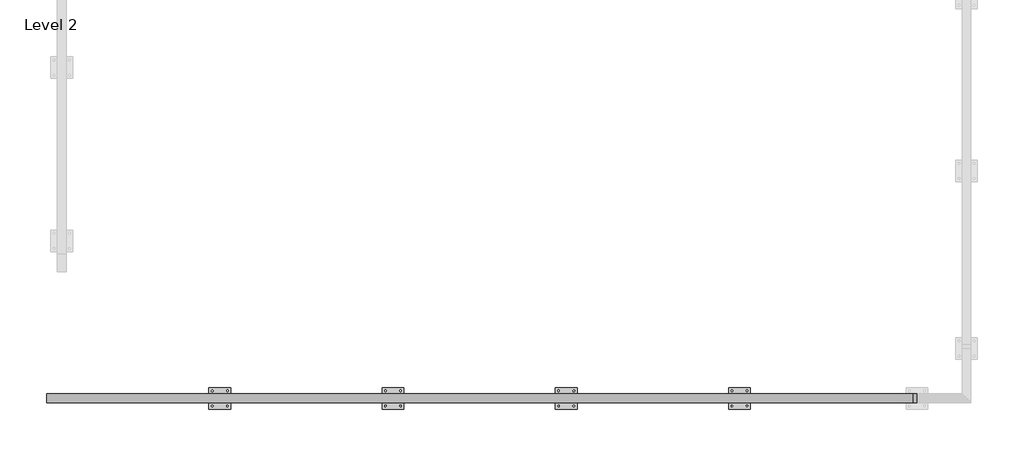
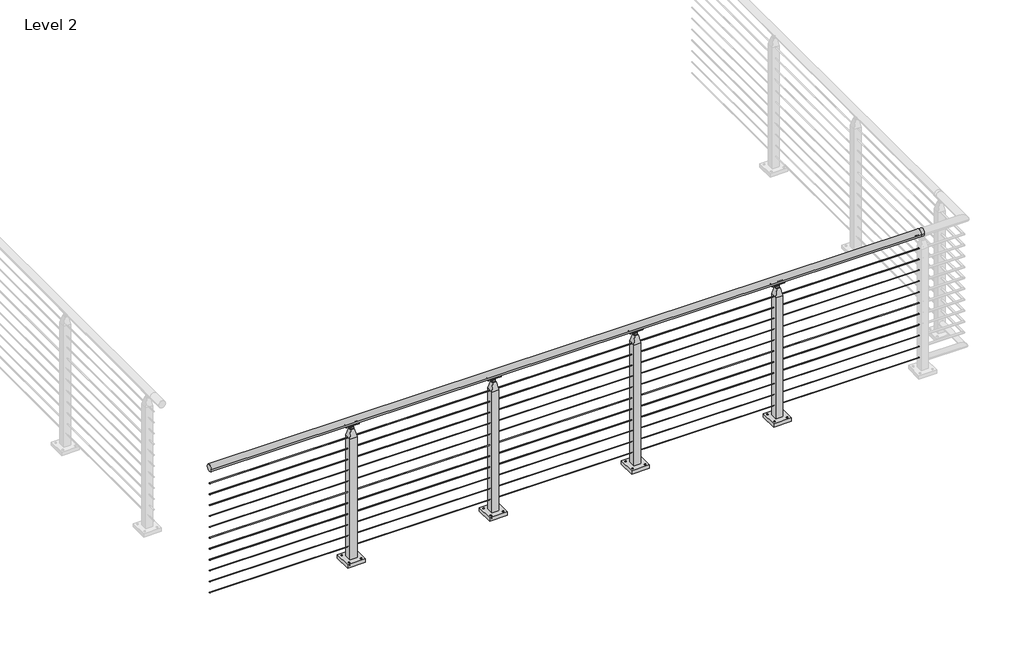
# One storey, part 8 of 17: 1 railing.
"""IFC4 building model written with IfcOpenShell, lengths in millimetres."""

from ifc_helpers import new_model, si_unit, point, frame, frame_2d, origin, place, context, project, spatial, polyline, circle_curve, trimmed, segment, composite_curve, outline, extrude, faceted_brep, element, save
from ifc_brep_helpers import plane_surface, cylinder_surface, revolved_surface, advanced_brep

model = new_model("IFC4")

# Units and contexts
model_context = context("Model", 3, world=origin())
ifc_project = project(units=[si_unit("LENGTHUNIT", "METRE", prefix="MILLI")], contexts=[model_context])

# Site, building, storey
site = spatial("IfcSite", under=ifc_project)
building = spatial("IfcBuilding", under=site)
storey = spatial("IfcBuildingStorey", under=building, Name="Level 2", Elevation=3048.0)

# Railing
placement = place(None, origin())
element("IfcRailing", 1, ObjectType="VIVA-CUBE-Cable-Floor Mount-Straight", at=placement, inside=storey, context=model_context, shape_type="SolidModel", body=[
    advanced_brep(
    [(15512.7167764, -52130.1426165, 4102.1), (15512.7167764, -52079.3426165, 4102.1), (20592.7167764, -52130.1426165, 4102.1), (20592.7167764, -52079.3426165, 4102.1), (20617.7199014, -52130.1426165, 4102.1), (20617.7199014, -52079.3426165, 4102.1)],
    [
        (0, 1, circle_curve(frame((15512.7167764, -52104.7426165, 4102.1), z_axis=(-1.0, 0.0, 0.0), x_axis=(0.0, 1.0, 0.0)), 25.4)),
        (1, 0, circle_curve(frame((15512.7167764, -52104.7426165, 4102.1), z_axis=(-1.0, 0.0, 0.0), x_axis=(0.0, 1.0, 0.0)), 25.4)),
        (0, 2),
        (2, 3, circle_curve(frame((20592.7167764, -52104.7426165, 4102.1), z_axis=(-1.0, 0.0, 0.0), x_axis=(0.0, 1.0, 0.0)), 25.4)),
        (3, 1),
        (3, 2, circle_curve(frame((20592.7167764, -52104.7426165, 4102.1), z_axis=(-1.0, 0.0, 0.0), x_axis=(0.0, 1.0, 0.0)), 25.4)),
        (4, 5, circle_curve(frame((20617.7199014, -52104.7426165, 4102.1), z_axis=(1.0, 0.0, 0.0), x_axis=(0.0, 1.0, 0.0)), 25.4)),
        (5, 4, circle_curve(frame((20617.7199014, -52104.7426165, 4102.1), z_axis=(1.0, 0.0, 0.0), x_axis=(0.0, 1.0, 0.0)), 25.4)),
        (2, 4),
        (5, 3),
    ],
    [
        plane_surface(frame((15512.7167764, -52104.7426165, 4127.5), z_axis=(-1.0, 0.0, 0.0), x_axis=(0.0, 1.0, 0.0))),
        cylinder_surface(frame((15512.7167764, -52104.7426165, 4102.1), z_axis=(-1.0, 0.0, 0.0), x_axis=(0.0, 1.0, 0.0)), 25.4),
        plane_surface(frame((20617.7199014, -52104.7426165, 4127.5), z_axis=(1.0, 0.0, 0.0), x_axis=(0.0, 1.0, 0.0))),
        cylinder_surface(frame((20592.7167764, -52104.7426165, 4102.1), z_axis=(-1.0, 0.0, 0.0), x_axis=(0.0, 1.0, 0.0)), 25.4),
    ],
    [
        (0, [[1, 2]]),
        (1, [[-1, 3, 4, 5]]),
        (1, [[-2, -5, 6, -3]]),
        (2, [[7, 8]]),
        (3, [[-4, 9, -8, 10]]),
        (3, [[-6, -10, -7, -9]]),
    ],
),
    extrude(outline(composite_curve([segment(trimmed(circle_curve(frame_2d((-52104.7426165, 3985.4124)), 2.3876), [point((-52102.3550165, 3985.4124))], [point((-52107.1302165, 3985.4124))], False, "CARTESIAN"), True, "CONTINUOUS"), segment(trimmed(circle_curve(frame_2d((-52104.7426165, 3985.4124)), 2.3876), [point((-52107.1302165, 3985.4124))], [point((-52102.3550165, 3985.4124))], False, "CARTESIAN"), True, "CONTINUOUS")], self_intersect=False)), frame((15512.7167764, 0.0, 0.0), z_axis=(1.0, 0.0, 0.0), x_axis=(0.0, 1.0, 0.0)), (0.0, 0.0, 1.0), 5080.0),
    extrude(outline(composite_curve([segment(trimmed(circle_curve(frame_2d((-52104.7426165, 3902.8624)), 2.3876), [point((-52102.3550165, 3902.8624))], [point((-52107.1302165, 3902.8624))], False, "CARTESIAN"), True, "CONTINUOUS"), segment(trimmed(circle_curve(frame_2d((-52104.7426165, 3902.8624)), 2.3876), [point((-52107.1302165, 3902.8624))], [point((-52102.3550165, 3902.8624))], False, "CARTESIAN"), True, "CONTINUOUS")], self_intersect=False)), frame((15512.7167764, 0.0, 0.0), z_axis=(1.0, 0.0, 0.0), x_axis=(0.0, 1.0, 0.0)), (0.0, 0.0, 1.0), 5080.0),
    extrude(outline(composite_curve([segment(trimmed(circle_curve(frame_2d((-52104.7426165, 3820.3124)), 2.3876), [point((-52102.3550165, 3820.3124))], [point((-52107.1302165, 3820.3124))], False, "CARTESIAN"), True, "CONTINUOUS"), segment(trimmed(circle_curve(frame_2d((-52104.7426165, 3820.3124)), 2.3876), [point((-52107.1302165, 3820.3124))], [point((-52102.3550165, 3820.3124))], False, "CARTESIAN"), True, "CONTINUOUS")], self_intersect=False)), frame((15512.7167764, 0.0, 0.0), z_axis=(1.0, 0.0, 0.0), x_axis=(0.0, 1.0, 0.0)), (0.0, 0.0, 1.0), 5080.0),
    extrude(outline(composite_curve([segment(trimmed(circle_curve(frame_2d((-52104.7426165, 3737.7624)), 2.3876), [point((-52102.3550165, 3737.7624))], [point((-52107.1302165, 3737.7624))], False, "CARTESIAN"), True, "CONTINUOUS"), segment(trimmed(circle_curve(frame_2d((-52104.7426165, 3737.7624)), 2.3876), [point((-52107.1302165, 3737.7624))], [point((-52102.3550165, 3737.7624))], False, "CARTESIAN"), True, "CONTINUOUS")], self_intersect=False)), frame((15512.7167764, 0.0, 0.0), z_axis=(1.0, 0.0, 0.0), x_axis=(0.0, 1.0, 0.0)), (0.0, 0.0, 1.0), 5080.0),
    extrude(outline(composite_curve([segment(trimmed(circle_curve(frame_2d((-52104.7426165, 3655.2124)), 2.3876), [point((-52102.3550165, 3655.2124))], [point((-52107.1302165, 3655.2124))], False, "CARTESIAN"), True, "CONTINUOUS"), segment(trimmed(circle_curve(frame_2d((-52104.7426165, 3655.2124)), 2.3876), [point((-52107.1302165, 3655.2124))], [point((-52102.3550165, 3655.2124))], False, "CARTESIAN"), True, "CONTINUOUS")], self_intersect=False)), frame((15512.7167764, 0.0, 0.0), z_axis=(1.0, 0.0, 0.0), x_axis=(0.0, 1.0, 0.0)), (0.0, 0.0, 1.0), 5080.0),
    extrude(outline(composite_curve([segment(trimmed(circle_curve(frame_2d((-52104.7426165, 3572.6624)), 2.3876), [point((-52102.3550165, 3572.6624))], [point((-52107.1302165, 3572.6624))], False, "CARTESIAN"), True, "CONTINUOUS"), segment(trimmed(circle_curve(frame_2d((-52104.7426165, 3572.6624)), 2.3876), [point((-52107.1302165, 3572.6624))], [point((-52102.3550165, 3572.6624))], False, "CARTESIAN"), True, "CONTINUOUS")], self_intersect=False)), frame((15512.7167764, 0.0, 0.0), z_axis=(1.0, 0.0, 0.0), x_axis=(0.0, 1.0, 0.0)), (0.0, 0.0, 1.0), 5080.0),
    extrude(outline(composite_curve([segment(trimmed(circle_curve(frame_2d((-52104.7426165, 3490.1124)), 2.3876), [point((-52102.3550165, 3490.1124))], [point((-52107.1302165, 3490.1124))], False, "CARTESIAN"), True, "CONTINUOUS"), segment(trimmed(circle_curve(frame_2d((-52104.7426165, 3490.1124)), 2.3876), [point((-52107.1302165, 3490.1124))], [point((-52102.3550165, 3490.1124))], False, "CARTESIAN"), True, "CONTINUOUS")], self_intersect=False)), frame((15512.7167764, 0.0, 0.0), z_axis=(1.0, 0.0, 0.0), x_axis=(0.0, 1.0, 0.0)), (0.0, 0.0, 1.0), 5080.0),
    extrude(outline(composite_curve([segment(trimmed(circle_curve(frame_2d((-52104.7426165, 3407.5624)), 2.3876), [point((-52102.3550165, 3407.5624))], [point((-52107.1302165, 3407.5624))], False, "CARTESIAN"), True, "CONTINUOUS"), segment(trimmed(circle_curve(frame_2d((-52104.7426165, 3407.5624)), 2.3876), [point((-52107.1302165, 3407.5624))], [point((-52102.3550165, 3407.5624))], False, "CARTESIAN"), True, "CONTINUOUS")], self_intersect=False)), frame((15512.7167764, 0.0, 0.0), z_axis=(1.0, 0.0, 0.0), x_axis=(0.0, 1.0, 0.0)), (0.0, 0.0, 1.0), 5080.0),
    extrude(outline(composite_curve([segment(trimmed(circle_curve(frame_2d((-52104.7426165, 3325.0124)), 2.3876), [point((-52102.3550165, 3325.0124))], [point((-52107.1302165, 3325.0124))], False, "CARTESIAN"), True, "CONTINUOUS"), segment(trimmed(circle_curve(frame_2d((-52104.7426165, 3325.0124)), 2.3876), [point((-52107.1302165, 3325.0124))], [point((-52102.3550165, 3325.0124))], False, "CARTESIAN"), True, "CONTINUOUS")], self_intersect=False)), frame((15512.7167764, 0.0, 0.0), z_axis=(1.0, 0.0, 0.0), x_axis=(0.0, 1.0, 0.0)), (0.0, 0.0, 1.0), 5080.0),
    extrude(outline(composite_curve([segment(trimmed(circle_curve(frame_2d((-52104.7426165, 3242.4624)), 2.3876), [point((-52102.3550165, 3242.4624))], [point((-52107.1302165, 3242.4624))], False, "CARTESIAN"), True, "CONTINUOUS"), segment(trimmed(circle_curve(frame_2d((-52104.7426165, 3242.4624)), 2.3876), [point((-52107.1302165, 3242.4624))], [point((-52102.3550165, 3242.4624))], False, "CARTESIAN"), True, "CONTINUOUS")], self_intersect=False)), frame((15512.7167764, 0.0, 0.0), z_axis=(1.0, 0.0, 0.0), x_axis=(0.0, 1.0, 0.0)), (0.0, 0.0, 1.0), 5080.0),
    extrude(outline(composite_curve([segment(trimmed(circle_curve(frame_2d((-52104.7426165, 3159.9124)), 2.3876), [point((-52102.3550165, 3159.9124))], [point((-52107.1302165, 3159.9124))], False, "CARTESIAN"), True, "CONTINUOUS"), segment(trimmed(circle_curve(frame_2d((-52104.7426165, 3159.9124)), 2.3876), [point((-52107.1302165, 3159.9124))], [point((-52102.3550165, 3159.9124))], False, "CARTESIAN"), True, "CONTINUOUS")], self_intersect=False)), frame((15512.7167764, 0.0, 0.0), z_axis=(1.0, 0.0, 0.0), x_axis=(0.0, 1.0, 0.0)), (0.0, 0.0, 1.0), 5080.0),
    extrude(outline(polyline([(19640.6136514, -52041.2426165), (19640.6136514, -52168.2426165), (19513.6136514, -52168.2426165), (19513.6136514, -52041.2426165), (19640.6136514, -52041.2426165)]), holes=[composite_curve([segment(trimmed(circle_curve(frame_2d((19532.6636514, -52149.1926165)), 4.7625), [point((19532.6636514, -52153.9551165))], [point((19532.6636514, -52144.4301165))], True, "CARTESIAN"), True, "CONTINUOUS"), segment(trimmed(circle_curve(frame_2d((19532.6636514, -52149.1926165)), 4.7625), [point((19532.6636514, -52144.4301165))], [point((19532.6636514, -52153.9551165))], True, "CARTESIAN"), True, "CONTINUOUS")], self_intersect=False), composite_curve([segment(trimmed(circle_curve(frame_2d((19532.6636514, -52060.2926165)), 4.7625), [point((19532.6636514, -52065.0551165))], [point((19532.6636514, -52055.5301165))], True, "CARTESIAN"), True, "CONTINUOUS"), segment(trimmed(circle_curve(frame_2d((19532.6636514, -52060.2926165)), 4.7625), [point((19532.6636514, -52055.5301165))], [point((19532.6636514, -52065.0551165))], True, "CARTESIAN"), True, "CONTINUOUS")], self_intersect=False), composite_curve([segment(trimmed(circle_curve(frame_2d((19621.5636514, -52149.1926165)), 4.7625), [point((19621.5636514, -52153.9551165))], [point((19621.5636514, -52144.4301165))], True, "CARTESIAN"), True, "CONTINUOUS"), segment(trimmed(circle_curve(frame_2d((19621.5636514, -52149.1926165)), 4.7625), [point((19621.5636514, -52144.4301165))], [point((19621.5636514, -52153.9551165))], True, "CARTESIAN"), True, "CONTINUOUS")], self_intersect=False), composite_curve([segment(trimmed(circle_curve(frame_2d((19621.5636514, -52060.2926165)), 4.7625), [point((19621.5636514, -52065.0551165))], [point((19621.5636514, -52055.5301165))], True, "CARTESIAN"), True, "CONTINUOUS"), segment(trimmed(circle_curve(frame_2d((19621.5636514, -52060.2926165)), 4.7625), [point((19621.5636514, -52055.5301165))], [point((19621.5636514, -52065.0551165))], True, "CARTESIAN"), True, "CONTINUOUS")], self_intersect=False)]), frame((0.0, 0.0, 3048.0), z_axis=(0.0, 0.0, 1.0), x_axis=(1.0, 0.0, 0.0)), (0.0, 0.0, 1.0), 25.4),
    faceted_brep([(19589.8136514, -52092.0426165, 4045.2902749), (19564.4136514, -52092.0426165, 4045.2902749), (19564.4136514, -52100.7738665, 4045.2902749), (19589.8136514, -52100.7738665, 4045.2902749), (19564.4136514, -52117.4426165, 4045.2902749), (19589.8136514, -52117.4426165, 4045.2902749), (19589.8136514, -52108.7113665, 4045.2902749), (19564.4136514, -52108.7113665, 4045.2902749), (19602.5136514, -52079.3426165, 3989.1347854), (19602.5136514, -52130.1426165, 3989.1347854), (19551.7136514, -52079.3426165, 3989.1347854), (19551.7136514, -52130.1426165, 3989.1347854), (19602.5136514, -52079.3426165, 3073.4), (19602.5136514, -52130.1426165, 3073.4), (19551.7136514, -52130.1426165, 3073.4), (19551.7136514, -52079.3426165, 3073.4), (19564.4136514, -52108.7113665, 4057.3306013), (19589.8136514, -52108.7113665, 4057.3306013), (19589.8136514, -52100.7738665, 4057.3306013), (19564.4136514, -52100.7738665, 4057.3306013)], [[[0, 1, 2, 3]], [[4, 5, 6, 7]], [[8, 0, 3, 6, 5, 9]], [[1, 0, 8, 10]], [[1, 10, 11, 4, 7, 2]], [[5, 4, 11, 9]], [[12, 13, 14, 15]], [[12, 15, 10, 8]], [[15, 14, 11, 10]], [[14, 13, 9, 11]], [[13, 12, 8, 9]], [[16, 17, 18, 19]], [[17, 16, 7, 6]], [[18, 17, 6, 3]], [[19, 18, 3, 2]], [[16, 19, 2, 7]]]),
    extrude(outline(composite_curve([segment(trimmed(circle_curve(frame_2d((-52104.6458882, 4102.1433184)), 25.4345159), [point((-52117.2096911, 4080.0284941))], [point((-52092.2506544, 4079.9335733))], True, "CARTESIAN"), True, "CONTINUOUS"), segment(trimmed(circle_curve(frame_2d((-52091.0060013, 4077.4310885)), 2.7949225), [point((-52092.2506544, 4079.9335733))], [point((-52089.5286962, 4075.0585031))], False, "CARTESIAN"), True, "CONTINUOUS"), segment(trimmed(circle_curve(frame_2d((-52104.7793513, 4102.905945)), 31.75), [point((-52089.5286962, 4075.0585031))], [point((-52121.0455885, 4075.6392616))], False, "CARTESIAN"), True, "CONTINUOUS"), segment(trimmed(circle_curve(frame_2d((-52118.7572487, 4077.5101807)), 2.9558141), [point((-52121.0455885, 4075.6392616))], [point((-52117.2096911, 4080.0284941))], False, "CARTESIAN"), True, "CONTINUOUS")], self_intersect=False)), frame((19531.8762514, 0.0, 0.0), z_axis=(1.0, 0.0, 0.0), x_axis=(0.0, 1.0, 0.0)), (0.0, 0.0, 1.0), 90.4748),
    advanced_brep(
    [(19604.1815662, -52102.2026165, 4071.3685171), (19589.8136514, -52102.2026165, 4057.0006022), (19564.4136514, -52102.2026165, 4057.0006022), (19550.0457365, -52102.2026165, 4071.3685171), (19604.1815662, -52107.2826165, 4071.3685171), (19550.0457365, -52107.2826165, 4071.3685171), (19564.4136514, -52107.2826165, 4057.0006022), (19589.8136514, -52107.2826165, 4057.0006022)],
    [
        (0, 1, circle_curve(frame((19604.1815662, -52102.2026165, 4057.0006022), z_axis=(0.0, -1.0, 0.0), x_axis=(-1.0, 0.0, 0.0)), 14.3679149)),
        (1, 2, circle_curve(frame((19577.1136514, -52102.2026165, 4057.0006022), z_axis=(0.0, 1.0, 0.0), x_axis=(-1.0, 0.0, 0.0)), 12.7)),
        (2, 3, circle_curve(frame((19550.0457365, -52102.2026165, 4057.0006022), z_axis=(0.0, -1.0, 0.0), x_axis=(-1.0, 0.0, 0.0)), 14.3679149)),
        (3, 0),
        (4, 5),
        (5, 6, circle_curve(frame((19550.0457365, -52107.2826165, 4057.0006022), z_axis=(0.0, 1.0, 0.0), x_axis=(-1.0, 0.0, 0.0)), 14.3679149)),
        (6, 7, circle_curve(frame((19577.1136514, -52107.2826165, 4057.0006022), z_axis=(0.0, -1.0, 0.0), x_axis=(-1.0, 0.0, 0.0)), 12.7)),
        (7, 4, circle_curve(frame((19604.1815662, -52107.2826165, 4057.0006022), z_axis=(0.0, 1.0, 0.0), x_axis=(-1.0, 0.0, 0.0)), 14.3679149)),
        (0, 4),
        (7, 1),
        (6, 2),
        (5, 3),
    ],
    [
        plane_surface(frame((19589.8136514, -52102.2026165, 4057.0006022), z_axis=(0.0, 1.0, 0.0), x_axis=(0.0, 0.0, -1.0))),
        plane_surface(frame((19589.8136514, -52107.2826165, 4057.0006022), z_axis=(0.0, -1.0, 0.0), x_axis=(0.0, 0.0, 1.0))),
        revolved_surface(polyline([(19589.8136513, -52107.2826165, 4057.0006022), (19589.8136513, -52102.2026165, 4057.0006022)]), (19604.1815662, -52107.2826165, 4057.0006022), (0.0, -1.0, 0.0)),
        cylinder_surface(frame((19577.1136514, -52107.2826165, 4057.0006022), z_axis=(0.0, 1.0, 0.0), x_axis=(-1.0, 0.0, 0.0)), 12.7),
        revolved_surface(polyline([(19535.6778216, -52107.2826165, 4057.0006022), (19535.6778216, -52102.2026165, 4057.0006022)]), (19550.0457365, -52107.2826165, 4057.0006022), (0.0, -1.0, 0.0)),
        plane_surface(frame((19550.0457365, -52102.2026165, 4071.3685171), z_axis=(0.0, 0.0, 1.0), x_axis=(0.0, -1.0, 0.0))),
    ],
    [
        (0, [[1, 2, 3, 4]]),
        (1, [[5, 6, 7, 8]]),
        (2, [[-1, 9, -8, 10]]),
        (3, [[-2, -10, -7, 11]]),
        (4, [[-3, -11, -6, 12]]),
        (5, [[-4, -12, -5, -9]]),
    ],
),
    extrude(outline(polyline([(18624.6136514, -52041.2426165), (18624.6136514, -52168.2426165), (18497.6136514, -52168.2426165), (18497.6136514, -52041.2426165), (18624.6136514, -52041.2426165)]), holes=[composite_curve([segment(trimmed(circle_curve(frame_2d((18516.6636514, -52149.1926165)), 4.7625), [point((18516.6636514, -52153.9551165))], [point((18516.6636514, -52144.4301165))], True, "CARTESIAN"), True, "CONTINUOUS"), segment(trimmed(circle_curve(frame_2d((18516.6636514, -52149.1926165)), 4.7625), [point((18516.6636514, -52144.4301165))], [point((18516.6636514, -52153.9551165))], True, "CARTESIAN"), True, "CONTINUOUS")], self_intersect=False), composite_curve([segment(trimmed(circle_curve(frame_2d((18516.6636514, -52060.2926165)), 4.7625), [point((18516.6636514, -52065.0551165))], [point((18516.6636514, -52055.5301165))], True, "CARTESIAN"), True, "CONTINUOUS"), segment(trimmed(circle_curve(frame_2d((18516.6636514, -52060.2926165)), 4.7625), [point((18516.6636514, -52055.5301165))], [point((18516.6636514, -52065.0551165))], True, "CARTESIAN"), True, "CONTINUOUS")], self_intersect=False), composite_curve([segment(trimmed(circle_curve(frame_2d((18605.5636514, -52149.1926165)), 4.7625), [point((18605.5636514, -52153.9551165))], [point((18605.5636514, -52144.4301165))], True, "CARTESIAN"), True, "CONTINUOUS"), segment(trimmed(circle_curve(frame_2d((18605.5636514, -52149.1926165)), 4.7625), [point((18605.5636514, -52144.4301165))], [point((18605.5636514, -52153.9551165))], True, "CARTESIAN"), True, "CONTINUOUS")], self_intersect=False), composite_curve([segment(trimmed(circle_curve(frame_2d((18605.5636514, -52060.2926165)), 4.7625), [point((18605.5636514, -52065.0551165))], [point((18605.5636514, -52055.5301165))], True, "CARTESIAN"), True, "CONTINUOUS"), segment(trimmed(circle_curve(frame_2d((18605.5636514, -52060.2926165)), 4.7625), [point((18605.5636514, -52055.5301165))], [point((18605.5636514, -52065.0551165))], True, "CARTESIAN"), True, "CONTINUOUS")], self_intersect=False)]), frame((0.0, 0.0, 3048.0), z_axis=(0.0, 0.0, 1.0), x_axis=(1.0, 0.0, 0.0)), (0.0, 0.0, 1.0), 25.4),
    faceted_brep([(18573.8136514, -52092.0426165, 4045.2902749), (18548.4136514, -52092.0426165, 4045.2902749), (18548.4136514, -52100.7738665, 4045.2902749), (18573.8136514, -52100.7738665, 4045.2902749), (18548.4136514, -52117.4426165, 4045.2902749), (18573.8136514, -52117.4426165, 4045.2902749), (18573.8136514, -52108.7113665, 4045.2902749), (18548.4136514, -52108.7113665, 4045.2902749), (18586.5136514, -52079.3426165, 3989.1347854), (18586.5136514, -52130.1426165, 3989.1347854), (18535.7136514, -52079.3426165, 3989.1347854), (18535.7136514, -52130.1426165, 3989.1347854), (18586.5136514, -52079.3426165, 3073.4), (18586.5136514, -52130.1426165, 3073.4), (18535.7136514, -52130.1426165, 3073.4), (18535.7136514, -52079.3426165, 3073.4), (18548.4136514, -52108.7113665, 4057.3306013), (18573.8136514, -52108.7113665, 4057.3306013), (18573.8136514, -52100.7738665, 4057.3306013), (18548.4136514, -52100.7738665, 4057.3306013)], [[[0, 1, 2, 3]], [[4, 5, 6, 7]], [[8, 0, 3, 6, 5, 9]], [[1, 0, 8, 10]], [[1, 10, 11, 4, 7, 2]], [[5, 4, 11, 9]], [[12, 13, 14, 15]], [[12, 15, 10, 8]], [[15, 14, 11, 10]], [[14, 13, 9, 11]], [[13, 12, 8, 9]], [[16, 17, 18, 19]], [[17, 16, 7, 6]], [[18, 17, 6, 3]], [[19, 18, 3, 2]], [[16, 19, 2, 7]]]),
    extrude(outline(composite_curve([segment(trimmed(circle_curve(frame_2d((-52104.6458882, 4102.1433184)), 25.4345159), [point((-52117.2096911, 4080.0284941))], [point((-52092.2506544, 4079.9335733))], True, "CARTESIAN"), True, "CONTINUOUS"), segment(trimmed(circle_curve(frame_2d((-52091.0060013, 4077.4310885)), 2.7949225), [point((-52092.2506544, 4079.9335733))], [point((-52089.5286962, 4075.0585031))], False, "CARTESIAN"), True, "CONTINUOUS"), segment(trimmed(circle_curve(frame_2d((-52104.7793513, 4102.905945)), 31.75), [point((-52089.5286962, 4075.0585031))], [point((-52121.0455885, 4075.6392616))], False, "CARTESIAN"), True, "CONTINUOUS"), segment(trimmed(circle_curve(frame_2d((-52118.7572487, 4077.5101807)), 2.9558141), [point((-52121.0455885, 4075.6392616))], [point((-52117.2096911, 4080.0284941))], False, "CARTESIAN"), True, "CONTINUOUS")], self_intersect=False)), frame((18515.8762514, 0.0, 0.0), z_axis=(1.0, 0.0, 0.0), x_axis=(0.0, 1.0, 0.0)), (0.0, 0.0, 1.0), 90.4748),
    advanced_brep(
    [(18588.1815662, -52102.2026165, 4071.3685171), (18573.8136514, -52102.2026165, 4057.0006022), (18548.4136514, -52102.2026165, 4057.0006022), (18534.0457365, -52102.2026165, 4071.3685171), (18588.1815662, -52107.2826165, 4071.3685171), (18534.0457365, -52107.2826165, 4071.3685171), (18548.4136514, -52107.2826165, 4057.0006022), (18573.8136514, -52107.2826165, 4057.0006022)],
    [
        (0, 1, circle_curve(frame((18588.1815662, -52102.2026165, 4057.0006022), z_axis=(0.0, -1.0, 0.0), x_axis=(-1.0, 0.0, 0.0)), 14.3679149)),
        (1, 2, circle_curve(frame((18561.1136514, -52102.2026165, 4057.0006022), z_axis=(0.0, 1.0, 0.0), x_axis=(-1.0, 0.0, 0.0)), 12.7)),
        (2, 3, circle_curve(frame((18534.0457365, -52102.2026165, 4057.0006022), z_axis=(0.0, -1.0, 0.0), x_axis=(-1.0, 0.0, 0.0)), 14.3679149)),
        (3, 0),
        (4, 5),
        (5, 6, circle_curve(frame((18534.0457365, -52107.2826165, 4057.0006022), z_axis=(0.0, 1.0, 0.0), x_axis=(-1.0, 0.0, 0.0)), 14.3679149)),
        (6, 7, circle_curve(frame((18561.1136514, -52107.2826165, 4057.0006022), z_axis=(0.0, -1.0, 0.0), x_axis=(-1.0, 0.0, 0.0)), 12.7)),
        (7, 4, circle_curve(frame((18588.1815662, -52107.2826165, 4057.0006022), z_axis=(0.0, 1.0, 0.0), x_axis=(-1.0, 0.0, 0.0)), 14.3679149)),
        (0, 4),
        (7, 1),
        (6, 2),
        (5, 3),
    ],
    [
        plane_surface(frame((18573.8136514, -52102.2026165, 4057.0006022), z_axis=(0.0, 1.0, 0.0), x_axis=(0.0, 0.0, -1.0))),
        plane_surface(frame((18573.8136514, -52107.2826165, 4057.0006022), z_axis=(0.0, -1.0, 0.0), x_axis=(0.0, 0.0, 1.0))),
        revolved_surface(polyline([(18573.8136513, -52107.2826165, 4057.0006022), (18573.8136513, -52102.2026165, 4057.0006022)]), (18588.1815662, -52107.2826165, 4057.0006022), (0.0, -1.0, 0.0)),
        cylinder_surface(frame((18561.1136514, -52107.2826165, 4057.0006022), z_axis=(0.0, 1.0, 0.0), x_axis=(-1.0, 0.0, 0.0)), 12.7),
        revolved_surface(polyline([(18519.6778216, -52107.2826165, 4057.0006022), (18519.6778216, -52102.2026165, 4057.0006022)]), (18534.0457365, -52107.2826165, 4057.0006022), (0.0, -1.0, 0.0)),
        plane_surface(frame((18534.0457365, -52102.2026165, 4071.3685171), z_axis=(0.0, 0.0, 1.0), x_axis=(0.0, -1.0, 0.0))),
    ],
    [
        (0, [[1, 2, 3, 4]]),
        (1, [[5, 6, 7, 8]]),
        (2, [[-1, 9, -8, 10]]),
        (3, [[-2, -10, -7, 11]]),
        (4, [[-3, -11, -6, 12]]),
        (5, [[-4, -12, -5, -9]]),
    ],
),
    extrude(outline(polyline([(17608.6136514, -52041.2426165), (17608.6136514, -52168.2426165), (17481.6136514, -52168.2426165), (17481.6136514, -52041.2426165), (17608.6136514, -52041.2426165)]), holes=[composite_curve([segment(trimmed(circle_curve(frame_2d((17500.6636514, -52149.1926165)), 4.7625), [point((17500.6636514, -52153.9551165))], [point((17500.6636514, -52144.4301165))], True, "CARTESIAN"), True, "CONTINUOUS"), segment(trimmed(circle_curve(frame_2d((17500.6636514, -52149.1926165)), 4.7625), [point((17500.6636514, -52144.4301165))], [point((17500.6636514, -52153.9551165))], True, "CARTESIAN"), True, "CONTINUOUS")], self_intersect=False), composite_curve([segment(trimmed(circle_curve(frame_2d((17500.6636514, -52060.2926165)), 4.7625), [point((17500.6636514, -52065.0551165))], [point((17500.6636514, -52055.5301165))], True, "CARTESIAN"), True, "CONTINUOUS"), segment(trimmed(circle_curve(frame_2d((17500.6636514, -52060.2926165)), 4.7625), [point((17500.6636514, -52055.5301165))], [point((17500.6636514, -52065.0551165))], True, "CARTESIAN"), True, "CONTINUOUS")], self_intersect=False), composite_curve([segment(trimmed(circle_curve(frame_2d((17589.5636514, -52149.1926165)), 4.7625), [point((17589.5636514, -52153.9551165))], [point((17589.5636514, -52144.4301165))], True, "CARTESIAN"), True, "CONTINUOUS"), segment(trimmed(circle_curve(frame_2d((17589.5636514, -52149.1926165)), 4.7625), [point((17589.5636514, -52144.4301165))], [point((17589.5636514, -52153.9551165))], True, "CARTESIAN"), True, "CONTINUOUS")], self_intersect=False), composite_curve([segment(trimmed(circle_curve(frame_2d((17589.5636514, -52060.2926165)), 4.7625), [point((17589.5636514, -52065.0551165))], [point((17589.5636514, -52055.5301165))], True, "CARTESIAN"), True, "CONTINUOUS"), segment(trimmed(circle_curve(frame_2d((17589.5636514, -52060.2926165)), 4.7625), [point((17589.5636514, -52055.5301165))], [point((17589.5636514, -52065.0551165))], True, "CARTESIAN"), True, "CONTINUOUS")], self_intersect=False)]), frame((0.0, 0.0, 3048.0), z_axis=(0.0, 0.0, 1.0), x_axis=(1.0, 0.0, 0.0)), (0.0, 0.0, 1.0), 25.4),
    faceted_brep([(17557.8136514, -52092.0426165, 4045.2902749), (17532.4136514, -52092.0426165, 4045.2902749), (17532.4136514, -52100.7738665, 4045.2902749), (17557.8136514, -52100.7738665, 4045.2902749), (17532.4136514, -52117.4426165, 4045.2902749), (17557.8136514, -52117.4426165, 4045.2902749), (17557.8136514, -52108.7113665, 4045.2902749), (17532.4136514, -52108.7113665, 4045.2902749), (17570.5136514, -52079.3426165, 3989.1347854), (17570.5136514, -52130.1426165, 3989.1347854), (17519.7136514, -52079.3426165, 3989.1347854), (17519.7136514, -52130.1426165, 3989.1347854), (17570.5136514, -52079.3426165, 3073.4), (17570.5136514, -52130.1426165, 3073.4), (17519.7136514, -52130.1426165, 3073.4), (17519.7136514, -52079.3426165, 3073.4), (17532.4136514, -52108.7113665, 4057.3306013), (17557.8136514, -52108.7113665, 4057.3306013), (17557.8136514, -52100.7738665, 4057.3306013), (17532.4136514, -52100.7738665, 4057.3306013)], [[[0, 1, 2, 3]], [[4, 5, 6, 7]], [[8, 0, 3, 6, 5, 9]], [[1, 0, 8, 10]], [[1, 10, 11, 4, 7, 2]], [[5, 4, 11, 9]], [[12, 13, 14, 15]], [[12, 15, 10, 8]], [[15, 14, 11, 10]], [[14, 13, 9, 11]], [[13, 12, 8, 9]], [[16, 17, 18, 19]], [[17, 16, 7, 6]], [[18, 17, 6, 3]], [[19, 18, 3, 2]], [[16, 19, 2, 7]]]),
    extrude(outline(composite_curve([segment(trimmed(circle_curve(frame_2d((-52104.6458882, 4102.1433184)), 25.4345159), [point((-52117.2096911, 4080.0284941))], [point((-52092.2506544, 4079.9335733))], True, "CARTESIAN"), True, "CONTINUOUS"), segment(trimmed(circle_curve(frame_2d((-52091.0060013, 4077.4310885)), 2.7949225), [point((-52092.2506544, 4079.9335733))], [point((-52089.5286962, 4075.0585031))], False, "CARTESIAN"), True, "CONTINUOUS"), segment(trimmed(circle_curve(frame_2d((-52104.7793513, 4102.905945)), 31.75), [point((-52089.5286962, 4075.0585031))], [point((-52121.0455885, 4075.6392616))], False, "CARTESIAN"), True, "CONTINUOUS"), segment(trimmed(circle_curve(frame_2d((-52118.7572487, 4077.5101807)), 2.9558141), [point((-52121.0455885, 4075.6392616))], [point((-52117.2096911, 4080.0284941))], False, "CARTESIAN"), True, "CONTINUOUS")], self_intersect=False)), frame((17499.8762514, 0.0, 0.0), z_axis=(1.0, 0.0, 0.0), x_axis=(0.0, 1.0, 0.0)), (0.0, 0.0, 1.0), 90.4748),
    advanced_brep(
    [(17572.1815662, -52102.2026165, 4071.3685171), (17557.8136514, -52102.2026165, 4057.0006022), (17532.4136514, -52102.2026165, 4057.0006022), (17518.0457365, -52102.2026165, 4071.3685171), (17572.1815662, -52107.2826165, 4071.3685171), (17518.0457365, -52107.2826165, 4071.3685171), (17532.4136514, -52107.2826165, 4057.0006022), (17557.8136514, -52107.2826165, 4057.0006022)],
    [
        (0, 1, circle_curve(frame((17572.1815662, -52102.2026165, 4057.0006022), z_axis=(0.0, -1.0, 0.0), x_axis=(-1.0, 0.0, 0.0)), 14.3679149)),
        (1, 2, circle_curve(frame((17545.1136514, -52102.2026165, 4057.0006022), z_axis=(0.0, 1.0, 0.0), x_axis=(-1.0, 0.0, 0.0)), 12.7)),
        (2, 3, circle_curve(frame((17518.0457365, -52102.2026165, 4057.0006022), z_axis=(0.0, -1.0, 0.0), x_axis=(-1.0, 0.0, 0.0)), 14.3679149)),
        (3, 0),
        (4, 5),
        (5, 6, circle_curve(frame((17518.0457365, -52107.2826165, 4057.0006022), z_axis=(0.0, 1.0, 0.0), x_axis=(-1.0, 0.0, 0.0)), 14.3679149)),
        (6, 7, circle_curve(frame((17545.1136514, -52107.2826165, 4057.0006022), z_axis=(0.0, -1.0, 0.0), x_axis=(-1.0, 0.0, 0.0)), 12.7)),
        (7, 4, circle_curve(frame((17572.1815662, -52107.2826165, 4057.0006022), z_axis=(0.0, 1.0, 0.0), x_axis=(-1.0, 0.0, 0.0)), 14.3679149)),
        (0, 4),
        (7, 1),
        (6, 2),
        (5, 3),
    ],
    [
        plane_surface(frame((17557.8136514, -52102.2026165, 4057.0006022), z_axis=(0.0, 1.0, 0.0), x_axis=(0.0, 0.0, -1.0))),
        plane_surface(frame((17557.8136514, -52107.2826165, 4057.0006022), z_axis=(0.0, -1.0, 0.0), x_axis=(0.0, 0.0, 1.0))),
        revolved_surface(polyline([(17557.8136513, -52107.2826165, 4057.0006022), (17557.8136513, -52102.2026165, 4057.0006022)]), (17572.1815662, -52107.2826165, 4057.0006022), (0.0, -1.0, 0.0)),
        cylinder_surface(frame((17545.1136514, -52107.2826165, 4057.0006022), z_axis=(0.0, 1.0, 0.0), x_axis=(-1.0, 0.0, 0.0)), 12.7),
        revolved_surface(polyline([(17503.6778216, -52107.2826165, 4057.0006022), (17503.6778216, -52102.2026165, 4057.0006022)]), (17518.0457365, -52107.2826165, 4057.0006022), (0.0, -1.0, 0.0)),
        plane_surface(frame((17518.0457365, -52102.2026165, 4071.3685171), z_axis=(0.0, 0.0, 1.0), x_axis=(0.0, -1.0, 0.0))),
    ],
    [
        (0, [[1, 2, 3, 4]]),
        (1, [[5, 6, 7, 8]]),
        (2, [[-1, 9, -8, 10]]),
        (3, [[-2, -10, -7, 11]]),
        (4, [[-3, -11, -6, 12]]),
        (5, [[-4, -12, -5, -9]]),
    ],
),
    extrude(outline(polyline([(16592.6136514, -52041.2426165), (16592.6136514, -52168.2426165), (16465.6136514, -52168.2426165), (16465.6136514, -52041.2426165), (16592.6136514, -52041.2426165)]), holes=[composite_curve([segment(trimmed(circle_curve(frame_2d((16484.6636514, -52149.1926165)), 4.7625), [point((16484.6636514, -52153.9551165))], [point((16484.6636514, -52144.4301165))], True, "CARTESIAN"), True, "CONTINUOUS"), segment(trimmed(circle_curve(frame_2d((16484.6636514, -52149.1926165)), 4.7625), [point((16484.6636514, -52144.4301165))], [point((16484.6636514, -52153.9551165))], True, "CARTESIAN"), True, "CONTINUOUS")], self_intersect=False), composite_curve([segment(trimmed(circle_curve(frame_2d((16484.6636514, -52060.2926165)), 4.7625), [point((16484.6636514, -52065.0551165))], [point((16484.6636514, -52055.5301165))], True, "CARTESIAN"), True, "CONTINUOUS"), segment(trimmed(circle_curve(frame_2d((16484.6636514, -52060.2926165)), 4.7625), [point((16484.6636514, -52055.5301165))], [point((16484.6636514, -52065.0551165))], True, "CARTESIAN"), True, "CONTINUOUS")], self_intersect=False), composite_curve([segment(trimmed(circle_curve(frame_2d((16573.5636514, -52149.1926165)), 4.7625), [point((16573.5636514, -52153.9551165))], [point((16573.5636514, -52144.4301165))], True, "CARTESIAN"), True, "CONTINUOUS"), segment(trimmed(circle_curve(frame_2d((16573.5636514, -52149.1926165)), 4.7625), [point((16573.5636514, -52144.4301165))], [point((16573.5636514, -52153.9551165))], True, "CARTESIAN"), True, "CONTINUOUS")], self_intersect=False), composite_curve([segment(trimmed(circle_curve(frame_2d((16573.5636514, -52060.2926165)), 4.7625), [point((16573.5636514, -52065.0551165))], [point((16573.5636514, -52055.5301165))], True, "CARTESIAN"), True, "CONTINUOUS"), segment(trimmed(circle_curve(frame_2d((16573.5636514, -52060.2926165)), 4.7625), [point((16573.5636514, -52055.5301165))], [point((16573.5636514, -52065.0551165))], True, "CARTESIAN"), True, "CONTINUOUS")], self_intersect=False)]), frame((0.0, 0.0, 3048.0), z_axis=(0.0, 0.0, 1.0), x_axis=(1.0, 0.0, 0.0)), (0.0, 0.0, 1.0), 25.4),
    faceted_brep([(16541.8136514, -52092.0426165, 4045.2902749), (16516.4136514, -52092.0426165, 4045.2902749), (16516.4136514, -52100.7738665, 4045.2902749), (16541.8136514, -52100.7738665, 4045.2902749), (16516.4136514, -52117.4426165, 4045.2902749), (16541.8136514, -52117.4426165, 4045.2902749), (16541.8136514, -52108.7113665, 4045.2902749), (16516.4136514, -52108.7113665, 4045.2902749), (16554.5136514, -52079.3426165, 3989.1347854), (16554.5136514, -52130.1426165, 3989.1347854), (16503.7136514, -52079.3426165, 3989.1347854), (16503.7136514, -52130.1426165, 3989.1347854), (16554.5136514, -52079.3426165, 3073.4), (16554.5136514, -52130.1426165, 3073.4), (16503.7136514, -52130.1426165, 3073.4), (16503.7136514, -52079.3426165, 3073.4), (16516.4136514, -52108.7113665, 4057.3306013), (16541.8136514, -52108.7113665, 4057.3306013), (16541.8136514, -52100.7738665, 4057.3306013), (16516.4136514, -52100.7738665, 4057.3306013)], [[[0, 1, 2, 3]], [[4, 5, 6, 7]], [[8, 0, 3, 6, 5, 9]], [[1, 0, 8, 10]], [[1, 10, 11, 4, 7, 2]], [[5, 4, 11, 9]], [[12, 13, 14, 15]], [[12, 15, 10, 8]], [[15, 14, 11, 10]], [[14, 13, 9, 11]], [[13, 12, 8, 9]], [[16, 17, 18, 19]], [[17, 16, 7, 6]], [[18, 17, 6, 3]], [[19, 18, 3, 2]], [[16, 19, 2, 7]]]),
    extrude(outline(composite_curve([segment(trimmed(circle_curve(frame_2d((-52104.6458882, 4102.1433184)), 25.4345159), [point((-52117.2096911, 4080.0284941))], [point((-52092.2506544, 4079.9335733))], True, "CARTESIAN"), True, "CONTINUOUS"), segment(trimmed(circle_curve(frame_2d((-52091.0060013, 4077.4310885)), 2.7949225), [point((-52092.2506544, 4079.9335733))], [point((-52089.5286962, 4075.0585031))], False, "CARTESIAN"), True, "CONTINUOUS"), segment(trimmed(circle_curve(frame_2d((-52104.7793513, 4102.905945)), 31.75), [point((-52089.5286962, 4075.0585031))], [point((-52121.0455885, 4075.6392616))], False, "CARTESIAN"), True, "CONTINUOUS"), segment(trimmed(circle_curve(frame_2d((-52118.7572487, 4077.5101807)), 2.9558141), [point((-52121.0455885, 4075.6392616))], [point((-52117.2096911, 4080.0284941))], False, "CARTESIAN"), True, "CONTINUOUS")], self_intersect=False)), frame((16483.8762514, 0.0, 0.0), z_axis=(1.0, 0.0, 0.0), x_axis=(0.0, 1.0, 0.0)), (0.0, 0.0, 1.0), 90.4748),
    advanced_brep(
    [(16556.1815662, -52102.2026165, 4071.3685171), (16541.8136514, -52102.2026165, 4057.0006022), (16516.4136514, -52102.2026165, 4057.0006022), (16502.0457365, -52102.2026165, 4071.3685171), (16556.1815662, -52107.2826165, 4071.3685171), (16502.0457365, -52107.2826165, 4071.3685171), (16516.4136514, -52107.2826165, 4057.0006022), (16541.8136514, -52107.2826165, 4057.0006022)],
    [
        (0, 1, circle_curve(frame((16556.1815662, -52102.2026165, 4057.0006022), z_axis=(0.0, -1.0, 0.0), x_axis=(-1.0, 0.0, 0.0)), 14.3679149)),
        (1, 2, circle_curve(frame((16529.1136514, -52102.2026165, 4057.0006022), z_axis=(0.0, 1.0, 0.0), x_axis=(-1.0, 0.0, 0.0)), 12.7)),
        (2, 3, circle_curve(frame((16502.0457365, -52102.2026165, 4057.0006022), z_axis=(0.0, -1.0, 0.0), x_axis=(-1.0, 0.0, 0.0)), 14.3679149)),
        (3, 0),
        (4, 5),
        (5, 6, circle_curve(frame((16502.0457365, -52107.2826165, 4057.0006022), z_axis=(0.0, 1.0, 0.0), x_axis=(-1.0, 0.0, 0.0)), 14.3679149)),
        (6, 7, circle_curve(frame((16529.1136514, -52107.2826165, 4057.0006022), z_axis=(0.0, -1.0, 0.0), x_axis=(-1.0, 0.0, 0.0)), 12.7)),
        (7, 4, circle_curve(frame((16556.1815662, -52107.2826165, 4057.0006022), z_axis=(0.0, 1.0, 0.0), x_axis=(-1.0, 0.0, 0.0)), 14.3679149)),
        (0, 4),
        (7, 1),
        (6, 2),
        (5, 3),
    ],
    [
        plane_surface(frame((16541.8136514, -52102.2026165, 4057.0006022), z_axis=(0.0, 1.0, 0.0), x_axis=(0.0, 0.0, -1.0))),
        plane_surface(frame((16541.8136514, -52107.2826165, 4057.0006022), z_axis=(0.0, -1.0, 0.0), x_axis=(0.0, 0.0, 1.0))),
        revolved_surface(polyline([(16541.8136513, -52107.2826165, 4057.0006022), (16541.8136513, -52102.2026165, 4057.0006022)]), (16556.1815662, -52107.2826165, 4057.0006022), (0.0, -1.0, 0.0)),
        cylinder_surface(frame((16529.1136514, -52107.2826165, 4057.0006022), z_axis=(0.0, 1.0, 0.0), x_axis=(-1.0, 0.0, 0.0)), 12.7),
        revolved_surface(polyline([(16487.6778216, -52107.2826165, 4057.0006022), (16487.6778216, -52102.2026165, 4057.0006022)]), (16502.0457365, -52107.2826165, 4057.0006022), (0.0, -1.0, 0.0)),
        plane_surface(frame((16502.0457365, -52102.2026165, 4071.3685171), z_axis=(0.0, 0.0, 1.0), x_axis=(0.0, -1.0, 0.0))),
    ],
    [
        (0, [[1, 2, 3, 4]]),
        (1, [[5, 6, 7, 8]]),
        (2, [[-1, 9, -8, 10]]),
        (3, [[-2, -10, -7, 11]]),
        (4, [[-3, -11, -6, 12]]),
        (5, [[-4, -12, -5, -9]]),
    ],
),
])

save(model, "model.ifc")
